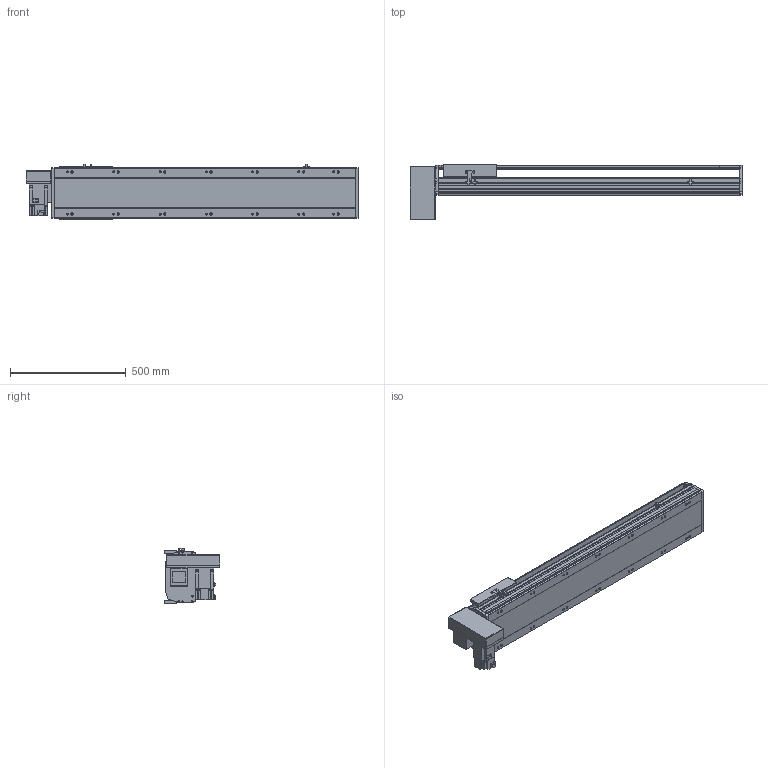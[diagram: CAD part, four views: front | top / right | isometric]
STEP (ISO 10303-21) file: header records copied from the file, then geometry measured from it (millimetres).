
FILE_DESCRIPTION(/* description */ ('STEP AP214'),/* implementation_level */ '2;1');
FILE_NAME(/* name */ 'PBS220-P40-S950-RD-T75-C1-N(0)',/* time_stamp */ '2022-06-13T02:41:44+02:00',/* author */ ('License CC BY-ND 4.0'),/* organization */ ('CADENAS'),/* preprocessor_version */ 'ST-DEVELOPER v18.102',/* originating_system */ 'PARTsolutions',/* authorisation */ ' ');
FILE_SCHEMA (('AUTOMOTIVE_DESIGN {1 0 10303 214 3 1 1}'));
Length unit declared in the file: millimetre
Products named in the file (7): PBS220-P40-S950-RD-T75-C1-N(0); PBS220_sensor; PBS220_plant; PBS220_sliser; T75-p1; PBS220T-RD_motors; PBS220-S950()_body
Assembly tree (8 placements, depth 2):
  PBS220-P40-S950-RD-T75-C1-N(0)
    PBS220_sensor  x3
    PBS220_plant
    PBS220_sliser
    T75-p1
    PBS220T-RD_motors
    PBS220-S950()_body
Bounding box: 1434 x 239 x 238.5 mm (x, y, z)
Volume: 20785646.5 mm3; surface area: 2042479.6 mm2
Topology: 8 solids, 8 shells, 902 faces, 2368 edges, 1540 vertices
Faces by surface type: plane 594, cylinder 270, cone 38
Full cylindrical faces by diameter (mm): 2.013 x4, 4.5 x14, 4.917 x4, 6 x7, 6.647 x8, 8 x10, 8.376 x14, 8.5 x14, 10 x6, 14 x14, 38 x2, 40 x1, 70 x1
Entity records: 25317 total; most frequent: CARTESIAN_POINT 4426, DIRECTION 4401, ORIENTED_EDGE 4070, EDGE_CURVE 2035, AXIS2_PLACEMENT_3D 1529, VERTEX_POINT 1400, LINE 1343, VECTOR 1343
